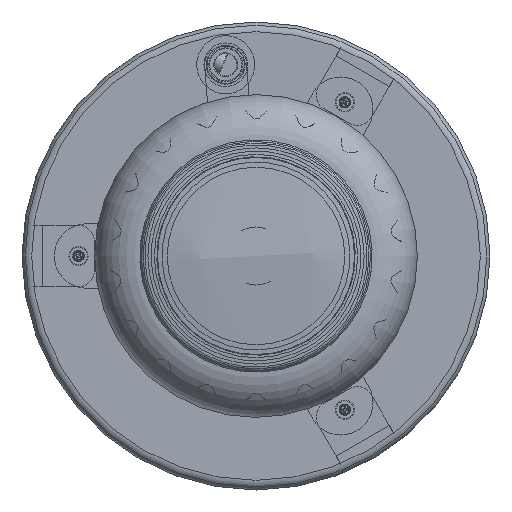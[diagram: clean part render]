
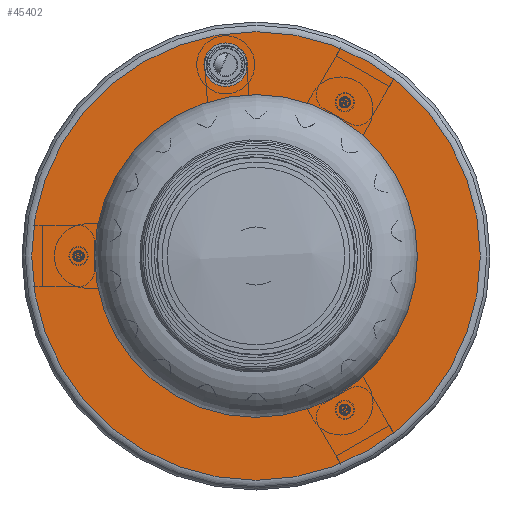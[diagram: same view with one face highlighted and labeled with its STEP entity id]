
A CAD part, front view. The second image highlights one B-rep face of the part: STEP entity #45402.
In plain terms, the highlighted planar face has unit normal (0, -1, 0).
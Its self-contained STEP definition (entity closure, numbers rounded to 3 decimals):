
#3241=FACE_BOUND('',#8916,.T.);
#3242=FACE_BOUND('',#8917,.T.);
#3243=FACE_BOUND('',#8918,.T.);
#3244=FACE_BOUND('',#8919,.T.);
#4179=PLANE('',#50573);
#6247=FACE_OUTER_BOUND('',#8915,.T.);
#8915=EDGE_LOOP('',(#38189));
#8916=EDGE_LOOP('',(#38190));
#8917=EDGE_LOOP('',(#38191));
#8918=EDGE_LOOP('',(#38192));
#8919=EDGE_LOOP('',(#38193));
#11127=CIRCLE('',#50556,1.485);
#11128=CIRCLE('',#50558,6.75);
#11130=CIRCLE('',#50561,2.5);
#11132=CIRCLE('',#50564,3.9);
#11137=CIRCLE('',#50571,69.5);
#22206=VERTEX_POINT('',#75056);
#22207=VERTEX_POINT('',#75060);
#22209=VERTEX_POINT('',#75066);
#22211=VERTEX_POINT('',#75072);
#22216=VERTEX_POINT('',#75086);
#27828=EDGE_CURVE('',#22206,#22206,#11127,.T.);
#27829=EDGE_CURVE('',#22207,#22207,#11128,.T.);
#27832=EDGE_CURVE('',#22209,#22209,#11130,.T.);
#27835=EDGE_CURVE('',#22211,#22211,#11132,.T.);
#27842=EDGE_CURVE('',#22216,#22216,#11137,.T.);
#38189=ORIENTED_EDGE('',*,*,#27842,.T.);
#38190=ORIENTED_EDGE('',*,*,#27828,.T.);
#38191=ORIENTED_EDGE('',*,*,#27829,.T.);
#38192=ORIENTED_EDGE('',*,*,#27832,.T.);
#38193=ORIENTED_EDGE('',*,*,#27835,.T.);
#45402=ADVANCED_FACE('',(#6247,#3241,#3242,#3243,#3244),#4179,.T.);
#50556=AXIS2_PLACEMENT_3D('',#75058,#60554,#60555);
#50558=AXIS2_PLACEMENT_3D('',#75061,#60558,#60559);
#50561=AXIS2_PLACEMENT_3D('',#75067,#60565,#60566);
#50564=AXIS2_PLACEMENT_3D('',#75073,#60572,#60573);
#50571=AXIS2_PLACEMENT_3D('',#75087,#60588,#60589);
#50573=AXIS2_PLACEMENT_3D('',#75089,#60592,#60593);
#60554=DIRECTION('center_axis',(0.,1.,0.));
#60555=DIRECTION('ref_axis',(1.,0.,0.));
#60558=DIRECTION('center_axis',(0.,1.,0.));
#60559=DIRECTION('ref_axis',(1.,0.,0.));
#60565=DIRECTION('center_axis',(0.,1.,0.));
#60566=DIRECTION('ref_axis',(1.,0.,0.));
#60572=DIRECTION('center_axis',(0.,1.,0.));
#60573=DIRECTION('ref_axis',(1.,0.,0.));
#60588=DIRECTION('center_axis',(0.,-1.,0.));
#60589=DIRECTION('ref_axis',(1.,0.,0.));
#60592=DIRECTION('center_axis',(0.,-1.,0.));
#60593=DIRECTION('ref_axis',(0.,0.,-1.));
#75056=CARTESIAN_POINT('',(33.589,0.,-20.25));
#75058=CARTESIAN_POINT('Origin',(35.074,0.,-20.25));
#75060=CARTESIAN_POINT('',(-62.765,0.,21.502));
#75061=CARTESIAN_POINT('Origin',(-56.015,0.,
21.502));
#75066=CARTESIAN_POINT('',(15.,0.,0.));
#75067=CARTESIAN_POINT('Origin',(17.5,0.,0.));
#75072=CARTESIAN_POINT('',(-3.9,0.,0.));
#75073=CARTESIAN_POINT('Origin',(0.,0.,0.));
#75086=CARTESIAN_POINT('',(0.,0.,69.5));
#75087=CARTESIAN_POINT('Origin',(0.,0.,
0.));
#75089=CARTESIAN_POINT('Origin',(0.,0.,0.));
